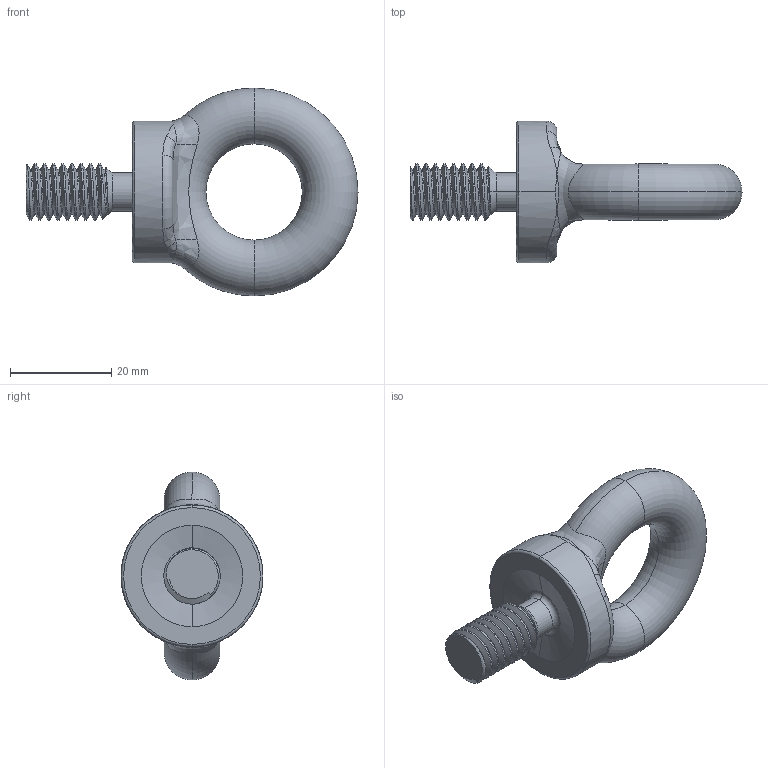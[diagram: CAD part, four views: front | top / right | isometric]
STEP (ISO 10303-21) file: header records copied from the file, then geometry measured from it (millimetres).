
FILE_DESCRIPTION (( 'STEP AP203' ), '1' );
FILE_NAME ('EBU437.STEP', '2014-03-07T03:43:03', ( '' ), ( '' ), 'SwSTEP 2.0', 'SolidWorks 2012', '' );
FILE_SCHEMA (( 'CONFIG_CONTROL_DESIGN' ));
Length unit declared in the file: millimetre
Products named in the file (1): EBU437
Bounding box: 65.5 x 28 x 41 mm (x, y, z)
Volume: 14920 mm3; surface area: 5486.3 mm2
Topology: 1 solids, 1 shells, 60 faces, 161 edges, 94 vertices
Faces by surface type: cylinder 21, bspline 17, torus 12, cone 5, plane 5
Entity records: 4858 total; most frequent: CARTESIAN_POINT 3555, ORIENTED_EDGE 306, DIRECTION 209, EDGE_CURVE 153, VERTEX_POINT 94, AXIS2_PLACEMENT_3D 91, EDGE_LOOP 61, ADVANCED_FACE 60
